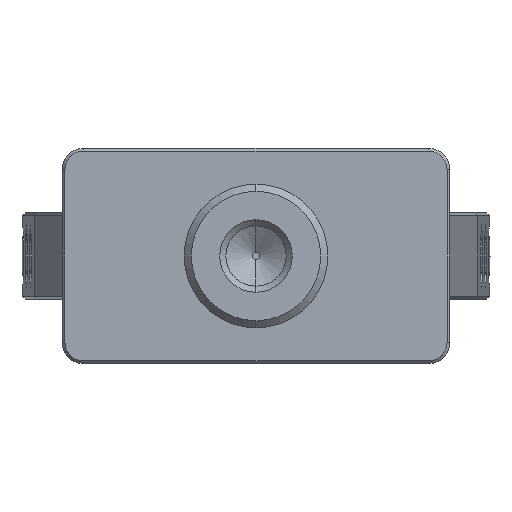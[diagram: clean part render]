
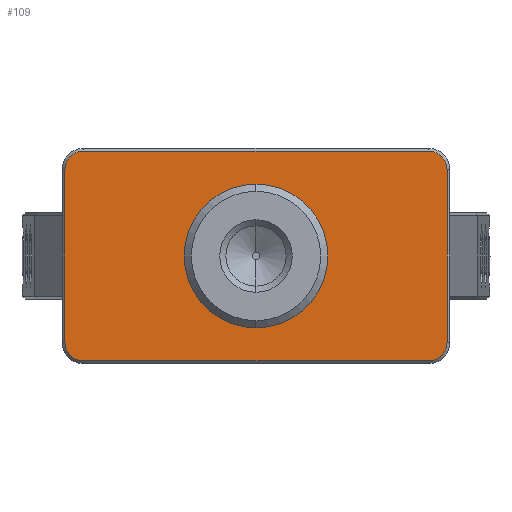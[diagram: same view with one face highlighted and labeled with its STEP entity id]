
A CAD part, front view. The second image highlights one B-rep face of the part: STEP entity #109.
In plain terms, the highlighted planar face has unit normal (0, -1, 0).
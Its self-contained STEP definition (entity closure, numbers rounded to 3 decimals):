
#94 = AXIS2_PLACEMENT_3D ( 'NONE', #17823, #11678, #18206 ) ;
#109 = ADVANCED_FACE ( 'NONE', ( #11505, #630 ), #19853, .T. ) ;
#169 = CARTESIAN_POINT ( 'NONE',  ( 12.5, -4., -14.8 ) ) ;
#380 = CARTESIAN_POINT ( 'NONE',  ( 13.3, -4., 0. ) ) ;
#520 = AXIS2_PLACEMENT_3D ( 'NONE', #1353, #2933, #13896 ) ;
#596 = LINE ( 'NONE', #6554, #16515 ) ;
#623 = DIRECTION ( 'NONE',  ( -1., 0., 0. ) ) ;
#630 = FACE_OUTER_BOUND ( 'NONE', #3625, .T. ) ;
#1353 = CARTESIAN_POINT ( 'NONE',  ( 12.5, -4., 0. ) ) ;
#1473 = DIRECTION ( 'NONE',  ( 0., -1., 0. ) ) ;
#1661 = VERTEX_POINT ( 'NONE', #13016 ) ;
#1695 = VERTEX_POINT ( 'NONE', #11557 ) ;
#1761 = DIRECTION ( 'NONE',  ( 0., -1., 0. ) ) ;
#2078 = ORIENTED_EDGE ( 'NONE', *, *, #10279, .F. ) ;
#2142 = ORIENTED_EDGE ( 'NONE', *, *, #2575, .T. ) ;
#2575 = EDGE_CURVE ( 'NONE', #18539, #17491, #12369, .T. ) ;
#2627 = EDGE_CURVE ( 'NONE', #17491, #19464, #17211, .T. ) ;
#2933 = DIRECTION ( 'NONE',  ( 0., -1., 0. ) ) ;
#3190 = ORIENTED_EDGE ( 'NONE', *, *, #15360, .T. ) ;
#3457 = AXIS2_PLACEMENT_3D ( 'NONE', #4887, #1761, #12421 ) ;
#3625 = EDGE_LOOP ( 'NONE', ( #7451, #13754, #8405, #16513, #2078, #9381, #2142, #14207 ) ) ;
#3668 = CARTESIAN_POINT ( 'NONE',  ( 12., -4., -14.8 ) ) ;
#3695 = DIRECTION ( 'NONE',  ( 0., 0., 1. ) ) ;
#4087 = VERTEX_POINT ( 'NONE', #7911 ) ;
#4438 = EDGE_CURVE ( 'NONE', #9111, #1661, #17837, .T. ) ;
#4525 = EDGE_CURVE ( 'NONE', #8685, #18539, #13711, .T. ) ;
#4821 = DIRECTION ( 'NONE',  ( 0., 1., 0. ) ) ;
#4887 = CARTESIAN_POINT ( 'NONE',  ( 12., -4., -1.5 ) ) ;
#4900 = VECTOR ( 'NONE', #12842, 1000. ) ;
#4975 = DIRECTION ( 'NONE',  ( 0., -1., 0. ) ) ;
#5519 = VECTOR ( 'NONE', #17024, 1000. ) ;
#6152 = CARTESIAN_POINT ( 'NONE',  ( -12., -4., -14.8 ) ) ;
#6405 = ORIENTED_EDGE ( 'NONE', *, *, #4438, .T. ) ;
#6443 = EDGE_CURVE ( 'NONE', #19464, #4087, #7403, .T. ) ;
#6499 = CARTESIAN_POINT ( 'NONE',  ( 13.3, -4., -13.5 ) ) ;
#6554 = CARTESIAN_POINT ( 'NONE',  ( 12.5, -4., -0.2 ) ) ;
#6868 = CARTESIAN_POINT ( 'NONE',  ( 0., -4., -7.5 ) ) ;
#7002 = DIRECTION ( 'NONE',  ( 0., 1., 0. ) ) ;
#7403 = CIRCLE ( 'NONE', #3457, 1.3 ) ;
#7451 = ORIENTED_EDGE ( 'NONE', *, *, #6443, .T. ) ;
#7911 = CARTESIAN_POINT ( 'NONE',  ( 12., -4., -0.2 ) ) ;
#7948 = CARTESIAN_POINT ( 'NONE',  ( -13.3, -4., -13.5 ) ) ;
#8405 = ORIENTED_EDGE ( 'NONE', *, *, #17921, .T. ) ;
#8515 = CIRCLE ( 'NONE', #12965, 1.3 ) ;
#8524 = CARTESIAN_POINT ( 'NONE',  ( 13.3, -4., -1.5 ) ) ;
#8542 = DIRECTION ( 'NONE',  ( 0., 0., -1. ) ) ;
#8583 = EDGE_CURVE ( 'NONE', #19329, #13295, #19699, .T. ) ;
#8685 = VERTEX_POINT ( 'NONE', #6152 ) ;
#9111 = VERTEX_POINT ( 'NONE', #17009 ) ;
#9381 = ORIENTED_EDGE ( 'NONE', *, *, #4525, .T. ) ;
#10239 = DIRECTION ( 'NONE',  ( 0., 0., -1. ) ) ;
#10279 = EDGE_CURVE ( 'NONE', #8685, #13295, #8515, .T. ) ;
#10431 = CARTESIAN_POINT ( 'NONE',  ( -13.3, -4., 0. ) ) ;
#11505 = FACE_BOUND ( 'NONE', #15347, .T. ) ;
#11557 = CARTESIAN_POINT ( 'NONE',  ( -12., -4., -0.2 ) ) ;
#11678 = DIRECTION ( 'NONE',  ( 0., 1., 0. ) ) ;
#12369 = CIRCLE ( 'NONE', #12370, 1.3 ) ;
#12370 = AXIS2_PLACEMENT_3D ( 'NONE', #17524, #4975, #3695 ) ;
#12421 = DIRECTION ( 'NONE',  ( -1., 0., 0. ) ) ;
#12842 = DIRECTION ( 'NONE',  ( 0., 0., 1. ) ) ;
#12954 = CIRCLE ( 'NONE', #94, 5. ) ;
#12965 = AXIS2_PLACEMENT_3D ( 'NONE', #15524, #4821, #18786 ) ;
#13016 = CARTESIAN_POINT ( 'NONE',  ( 0., -4., -12.5 ) ) ;
#13295 = VERTEX_POINT ( 'NONE', #7948 ) ;
#13711 = LINE ( 'NONE', #169, #5519 ) ;
#13754 = ORIENTED_EDGE ( 'NONE', *, *, #17616, .T. ) ;
#13818 = AXIS2_PLACEMENT_3D ( 'NONE', #18486, #1473, #17064 ) ;
#13896 = DIRECTION ( 'NONE',  ( 0., 0., -1. ) ) ;
#14207 = ORIENTED_EDGE ( 'NONE', *, *, #2627, .T. ) ;
#14327 = CIRCLE ( 'NONE', #13818, 1.3 ) ;
#15347 = EDGE_LOOP ( 'NONE', ( #3190, #6405 ) ) ;
#15360 = EDGE_CURVE ( 'NONE', #1661, #9111, #12954, .T. ) ;
#15524 = CARTESIAN_POINT ( 'NONE',  ( -12., -4., -13.5 ) ) ;
#16513 = ORIENTED_EDGE ( 'NONE', *, *, #8583, .T. ) ;
#16515 = VECTOR ( 'NONE', #623, 1000. ) ;
#16870 = AXIS2_PLACEMENT_3D ( 'NONE', #6868, #7002, #8542 ) ;
#17009 = CARTESIAN_POINT ( 'NONE',  ( 0., -4., -2.5 ) ) ;
#17024 = DIRECTION ( 'NONE',  ( 1., 0., 0. ) ) ;
#17064 = DIRECTION ( 'NONE',  ( -1., 0., 0. ) ) ;
#17211 = LINE ( 'NONE', #380, #4900 ) ;
#17277 = VECTOR ( 'NONE', #10239, 1000. ) ;
#17491 = VERTEX_POINT ( 'NONE', #6499 ) ;
#17524 = CARTESIAN_POINT ( 'NONE',  ( 12., -4., -13.5 ) ) ;
#17616 = EDGE_CURVE ( 'NONE', #4087, #1695, #596, .T. ) ;
#17823 = CARTESIAN_POINT ( 'NONE',  ( 0., -4., -7.5 ) ) ;
#17837 = CIRCLE ( 'NONE', #16870, 5. ) ;
#17921 = EDGE_CURVE ( 'NONE', #1695, #19329, #14327, .T. ) ;
#17931 = CARTESIAN_POINT ( 'NONE',  ( -13.3, -4., -1.5 ) ) ;
#18206 = DIRECTION ( 'NONE',  ( 0., 0., -1. ) ) ;
#18486 = CARTESIAN_POINT ( 'NONE',  ( -12., -4., -1.5 ) ) ;
#18539 = VERTEX_POINT ( 'NONE', #3668 ) ;
#18786 = DIRECTION ( 'NONE',  ( 0., 0., 1. ) ) ;
#19329 = VERTEX_POINT ( 'NONE', #17931 ) ;
#19464 = VERTEX_POINT ( 'NONE', #8524 ) ;
#19699 = LINE ( 'NONE', #10431, #17277 ) ;
#19853 = PLANE ( 'NONE',  #520 ) ;
